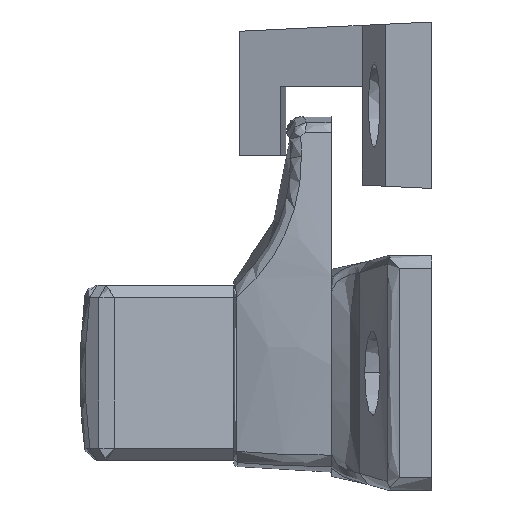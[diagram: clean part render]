
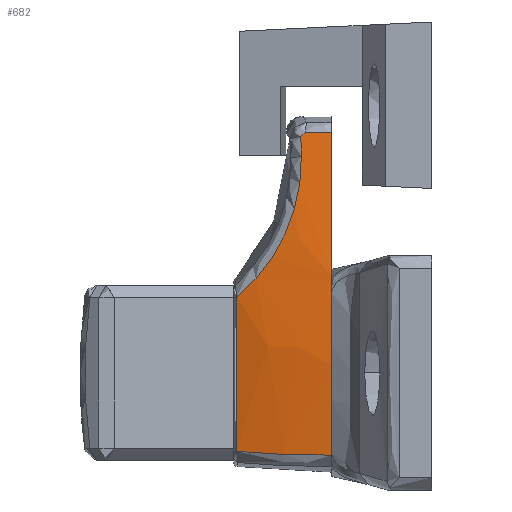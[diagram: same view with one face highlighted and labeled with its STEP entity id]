
A CAD part, left-side view. The second image highlights one B-rep face of the part: STEP entity #682.
In plain terms, the highlighted free-form (B-spline) face has degree [3, 3] with [4, 4] control points.
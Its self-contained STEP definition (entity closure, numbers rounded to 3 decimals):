
#682=ADVANCED_FACE('',(#1619),#13810,.T.);
#1619=FACE_OUTER_BOUND('',#2546,.T.);
#2546=EDGE_LOOP('',(#6134,#6135,#6136,#6137,#6138,#6139,#6140));
#6134=ORIENTED_EDGE('',*,*,#9092,.F.);
#6135=ORIENTED_EDGE('',*,*,#9093,.F.);
#6136=ORIENTED_EDGE('',*,*,#9094,.F.);
#6137=ORIENTED_EDGE('',*,*,#9095,.F.);
#6138=ORIENTED_EDGE('',*,*,#9077,.F.);
#6139=ORIENTED_EDGE('',*,*,#9070,.F.);
#6140=ORIENTED_EDGE('',*,*,#9074,.F.);
#9070=EDGE_CURVE('',#13147,#13148,#11676,.T.);
#9074=EDGE_CURVE('',#13134,#13147,#11679,.T.);
#9077=EDGE_CURVE('',#13148,#13149,#11681,.T.);
#9092=EDGE_CURVE('',#13145,#13134,#9918,.T.);
#9093=EDGE_CURVE('',#13157,#13145,#11691,.T.);
#9094=EDGE_CURVE('',#13159,#13157,#9919,.T.);
#9095=EDGE_CURVE('',#13149,#13159,#11692,.T.);
#9918=(
BOUNDED_CURVE()
B_SPLINE_CURVE(2,(#45694,#45695,#45696),.UNSPECIFIED.,.F.,.F.)
B_SPLINE_CURVE_WITH_KNOTS((3,3),(-18.503,0.),.UNSPECIFIED.)
CURVE()
GEOMETRIC_REPRESENTATION_ITEM()
RATIONAL_B_SPLINE_CURVE((1.,0.998,1.))
REPRESENTATION_ITEM('')
);
#9919=(
BOUNDED_CURVE()
B_SPLINE_CURVE(2,(#45701,#45702,#45703),.UNSPECIFIED.,.F.,.F.)
B_SPLINE_CURVE_WITH_KNOTS((3,3),(-38.725,0.),.UNSPECIFIED.)
CURVE()
GEOMETRIC_REPRESENTATION_ITEM()
RATIONAL_B_SPLINE_CURVE((1.,0.99,1.))
REPRESENTATION_ITEM('')
);
#11676=B_SPLINE_CURVE_WITH_KNOTS('',3,(#45519,#45520,#45521,#45522),
 .UNSPECIFIED.,.F.,.F.,(4,4),(-0.002,0.),
 .UNSPECIFIED.);
#11679=B_SPLINE_CURVE_WITH_KNOTS('',3,(#45554,#45555,#45556,#45557,#45558,
#45559,#45560,#45561,#45562,#45563,#45564,#45565,#45566,#45567),
 .UNSPECIFIED.,.F.,.F.,(4,2,2,2,2,2,4),(0.,4.817,7.225,
9.634,12.042,14.451,19.268),
 .UNSPECIFIED.);
#11681=B_SPLINE_CURVE_WITH_KNOTS('',3,(#45585,#45586,#45587,#45588,#45589,
#45590,#45591,#45592),.UNSPECIFIED.,.F.,.F.,(4,2,2,4),(0.,0.205,
0.41,0.82),.UNSPECIFIED.);
#11691=B_SPLINE_CURVE_WITH_KNOTS('',3,(#45697,#45698,#45699,#45700),
 .UNSPECIFIED.,.F.,.F.,(4,4),(-11.447,0.),.UNSPECIFIED.);
#11692=B_SPLINE_CURVE_WITH_KNOTS('',3,(#45704,#45705,#45706,#45707),
 .UNSPECIFIED.,.F.,.F.,(4,4),(-3.13,0.),.UNSPECIFIED.);
#13134=VERTEX_POINT('',#38811);
#13145=VERTEX_POINT('',#38822);
#13147=VERTEX_POINT('',#38824);
#13148=VERTEX_POINT('',#38825);
#13149=VERTEX_POINT('',#38826);
#13157=VERTEX_POINT('',#38834);
#13159=VERTEX_POINT('',#38836);
#13810=(
BOUNDED_SURFACE()
B_SPLINE_SURFACE(3,3,((#31780,#31781,#31782,#31783),(#31784,#31785,#31786,
#31787),(#31788,#31789,#31790,#31791),(#31792,#31793,#31794,#31795)),
 .UNSPECIFIED.,.F.,.F.,.F.)
B_SPLINE_SURFACE_WITH_KNOTS((4,4),(4,4),(0.,72.49),(0.,
11.836),.UNSPECIFIED.)
GEOMETRIC_REPRESENTATION_ITEM()
RATIONAL_B_SPLINE_SURFACE(((1.,0.997,0.997,1.),
(0.978,0.975,0.975,0.978),
(0.978,0.975,0.975,0.978),
(1.,0.997,0.997,1.)))
REPRESENTATION_ITEM('')
SURFACE()
);
#31780=CARTESIAN_POINT('',(-9.757,12.,-25.96));
#31781=CARTESIAN_POINT('',(-9.499,15.934,-25.892));
#31782=CARTESIAN_POINT('',(-8.898,19.828,-25.733));
#31783=CARTESIAN_POINT('',(-7.957,23.65,-25.484));
#31784=CARTESIAN_POINT('',(-14.788,12.,-2.326));
#31785=CARTESIAN_POINT('',(-14.519,15.934,-2.303));
#31786=CARTESIAN_POINT('',(-13.889,19.828,-2.25));
#31787=CARTESIAN_POINT('',(-12.905,23.65,-2.166));
#31788=CARTESIAN_POINT('',(-13.569,12.,21.807));
#31789=CARTESIAN_POINT('',(-13.3,15.934,21.783));
#31790=CARTESIAN_POINT('',(-12.671,19.828,21.727));
#31791=CARTESIAN_POINT('',(-11.687,23.65,21.64));
#31792=CARTESIAN_POINT('',(-6.182,12.,44.813));
#31793=CARTESIAN_POINT('',(-5.925,15.934,44.744));
#31794=CARTESIAN_POINT('',(-5.324,19.828,44.583));
#31795=CARTESIAN_POINT('',(-4.384,23.65,44.331));
#38811=CARTESIAN_POINT('',(-10.862,23.27,9.075));
#38822=CARTESIAN_POINT('',(-10.472,23.27,-9.381));
#38824=CARTESIAN_POINT('',(-10.464,15.566,25.899));
#38825=CARTESIAN_POINT('',(-10.032,15.615,28.263));
#38826=CARTESIAN_POINT('',(-9.996,15.114,28.773));
#38834=CARTESIAN_POINT('',(-12.203,12.,-9.829));
#38836=CARTESIAN_POINT('',(-10.297,12.,28.721));
#45519=CARTESIAN_POINT('',(-10.464,15.566,25.899));
#45520=CARTESIAN_POINT('',(-10.327,15.582,26.688));
#45521=CARTESIAN_POINT('',(-10.183,15.599,27.476));
#45522=CARTESIAN_POINT('',(-10.032,15.615,28.263));
#45554=CARTESIAN_POINT('',(-10.862,23.27,9.075));
#45555=CARTESIAN_POINT('',(-11.119,22.044,10.089));
#45556=CARTESIAN_POINT('',(-11.291,20.939,11.231));
#45557=CARTESIAN_POINT('',(-11.439,19.473,13.137));
#45558=CARTESIAN_POINT('',(-11.469,19.015,13.808));
#45559=CARTESIAN_POINT('',(-11.492,18.188,15.182));
#45560=CARTESIAN_POINT('',(-11.486,17.817,15.887));
#45561=CARTESIAN_POINT('',(-11.441,17.155,17.335));
#45562=CARTESIAN_POINT('',(-11.402,16.865,18.077));
#45563=CARTESIAN_POINT('',(-11.292,16.367,19.6));
#45564=CARTESIAN_POINT('',(-11.22,16.159,20.382));
#45565=CARTESIAN_POINT('',(-10.965,15.677,22.727));
#45566=CARTESIAN_POINT('',(-10.741,15.534,24.306));
#45567=CARTESIAN_POINT('',(-10.464,15.566,25.899));
#45585=CARTESIAN_POINT('',(-10.032,15.615,28.263));
#45586=CARTESIAN_POINT('',(-10.019,15.617,28.33));
#45587=CARTESIAN_POINT('',(-10.008,15.606,28.396));
#45588=CARTESIAN_POINT('',(-9.99,15.559,28.52));
#45589=CARTESIAN_POINT('',(-9.984,15.523,28.578));
#45590=CARTESIAN_POINT('',(-9.973,15.383,28.722));
#45591=CARTESIAN_POINT('',(-9.979,15.249,28.776));
#45592=CARTESIAN_POINT('',(-9.996,15.114,28.773));
#45694=CARTESIAN_POINT('',(-10.472,23.27,-9.381));
#45695=CARTESIAN_POINT('',(-11.295,23.27,-0.166));
#45696=CARTESIAN_POINT('',(-10.862,23.27,9.075));
#45697=CARTESIAN_POINT('',(-12.203,12.,-9.829));
#45698=CARTESIAN_POINT('',(-11.941,15.802,-9.867));
#45699=CARTESIAN_POINT('',(-11.361,19.58,-9.718));
#45700=CARTESIAN_POINT('',(-10.472,23.27,-9.381));
#45701=CARTESIAN_POINT('',(-10.297,12.,28.721));
#45702=CARTESIAN_POINT('',(-13.978,12.,9.581));
#45703=CARTESIAN_POINT('',(-12.203,12.,-9.829));
#45704=CARTESIAN_POINT('',(-9.996,15.114,28.773));
#45705=CARTESIAN_POINT('',(-10.122,14.079,28.752));
#45706=CARTESIAN_POINT('',(-10.223,13.041,28.734));
#45707=CARTESIAN_POINT('',(-10.297,12.,28.721));
